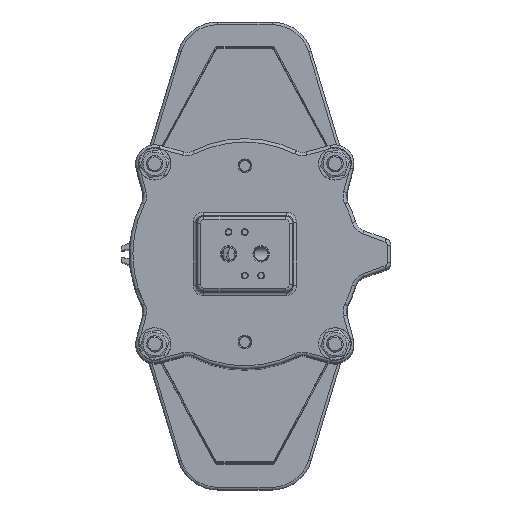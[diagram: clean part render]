
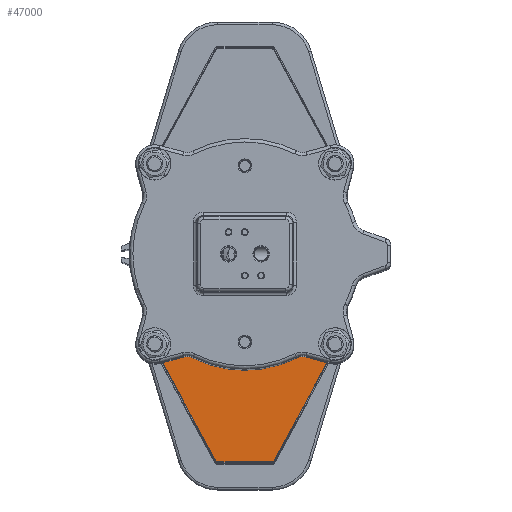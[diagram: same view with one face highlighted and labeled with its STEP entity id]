
A CAD part, top view. The second image highlights one B-rep face of the part: STEP entity #47000.
In plain terms, the highlighted planar face has unit normal (0, 0, 1).
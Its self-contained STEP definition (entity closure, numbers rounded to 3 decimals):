
#2109=PLANE('',#51800);
#5489=LINE('',#94013,#8362);
#5490=LINE('',#94016,#8363);
#5494=LINE('',#94024,#8367);
#5497=LINE('',#94030,#8370);
#5500=LINE('',#94036,#8373);
#5504=LINE('',#94044,#8377);
#5512=LINE('',#94060,#8385);
#5514=LINE('',#94063,#8387);
#5516=LINE('',#94067,#8389);
#5518=LINE('',#94071,#8391);
#5519=LINE('',#94073,#8392);
#6122=LINE('',#97007,#8995);
#6123=LINE('',#97009,#8996);
#6124=LINE('',#97010,#8997);
#8362=VECTOR('',#61075,10.);
#8363=VECTOR('',#61078,10.);
#8367=VECTOR('',#61084,10.);
#8370=VECTOR('',#61087,10.);
#8373=VECTOR('',#61092,10.);
#8377=VECTOR('',#61098,10.);
#8385=VECTOR('',#61110,10.);
#8387=VECTOR('',#61114,10.);
#8389=VECTOR('',#61118,10.);
#8391=VECTOR('',#61122,10.);
#8392=VECTOR('',#61125,10.);
#8995=VECTOR('',#63618,10.);
#8996=VECTOR('',#63619,10.);
#8997=VECTOR('',#63620,10.);
#11706=FACE_OUTER_BOUND('',#14735,.T.);
#14735=EDGE_LOOP('',(#39958,#39959,#39960,#39961,#39962,#39963,#39964,#39965,
#39966,#39967,#39968,#39969,#39970,#39971));
#21175=VERTEX_POINT('',#94006);
#21178=VERTEX_POINT('',#94011);
#21179=VERTEX_POINT('',#94015);
#21182=VERTEX_POINT('',#94022);
#21184=VERTEX_POINT('',#94027);
#21185=VERTEX_POINT('',#94029);
#21187=VERTEX_POINT('',#94035);
#21190=VERTEX_POINT('',#94042);
#21195=VERTEX_POINT('',#94057);
#21196=VERTEX_POINT('',#94059);
#21197=VERTEX_POINT('',#94065);
#21198=VERTEX_POINT('',#94069);
#21860=VERTEX_POINT('',#97006);
#21861=VERTEX_POINT('',#97008);
#26873=EDGE_CURVE('',#21178,#21175,#5489,.T.);
#26874=EDGE_CURVE('',#21179,#21178,#5490,.T.);
#26878=EDGE_CURVE('',#21182,#21179,#5494,.T.);
#26881=EDGE_CURVE('',#21184,#21185,#5497,.T.);
#26884=EDGE_CURVE('',#21187,#21184,#5500,.T.);
#26888=EDGE_CURVE('',#21190,#21187,#5504,.T.);
#26896=EDGE_CURVE('',#21196,#21195,#5512,.T.);
#26898=EDGE_CURVE('',#21195,#21175,#5514,.T.);
#26900=EDGE_CURVE('',#21190,#21197,#5516,.T.);
#26902=EDGE_CURVE('',#21197,#21198,#5518,.T.);
#26903=EDGE_CURVE('',#21196,#21198,#5519,.T.);
#28119=EDGE_CURVE('',#21182,#21860,#6122,.T.);
#28120=EDGE_CURVE('',#21860,#21861,#6123,.T.);
#28121=EDGE_CURVE('',#21861,#21185,#6124,.T.);
#39958=ORIENTED_EDGE('',*,*,#28119,.T.);
#39959=ORIENTED_EDGE('',*,*,#28120,.T.);
#39960=ORIENTED_EDGE('',*,*,#28121,.T.);
#39961=ORIENTED_EDGE('',*,*,#26881,.F.);
#39962=ORIENTED_EDGE('',*,*,#26884,.F.);
#39963=ORIENTED_EDGE('',*,*,#26888,.F.);
#39964=ORIENTED_EDGE('',*,*,#26900,.T.);
#39965=ORIENTED_EDGE('',*,*,#26902,.T.);
#39966=ORIENTED_EDGE('',*,*,#26903,.F.);
#39967=ORIENTED_EDGE('',*,*,#26896,.T.);
#39968=ORIENTED_EDGE('',*,*,#26898,.T.);
#39969=ORIENTED_EDGE('',*,*,#26873,.F.);
#39970=ORIENTED_EDGE('',*,*,#26874,.F.);
#39971=ORIENTED_EDGE('',*,*,#26878,.F.);
#47000=ADVANCED_FACE('',(#11706),#2109,.T.);
#51800=AXIS2_PLACEMENT_3D('',#97005,#63616,#63617);
#61075=DIRECTION('',(-0.477,-0.879,0.));
#61078=DIRECTION('',(-0.007,-1.,0.));
#61084=DIRECTION('',(1.,0.,0.));
#61087=DIRECTION('',(1.,0.,0.));
#61092=DIRECTION('',(0.,1.,0.));
#61098=DIRECTION('',(-0.477,0.879,0.));
#61110=DIRECTION('',(0.,1.,0.));
#61114=DIRECTION('',(1.,0.,0.));
#61118=DIRECTION('',(1.,0.,0.));
#61122=DIRECTION('',(0.,-1.,0.));
#61125=DIRECTION('',(-1.,0.,0.));
#63616=DIRECTION('center_axis',(0.,0.,
1.));
#63617=DIRECTION('ref_axis',(1.,0.,0.));
#63618=DIRECTION('',(-0.882,-0.471,0.));
#63619=DIRECTION('',(-1.,0.,0.));
#63620=DIRECTION('',(-0.882,0.471,0.));
#94006=CARTESIAN_POINT('',(-165.848,-120.376,673.795));
#94011=CARTESIAN_POINT('',(-120.053,-35.962,673.795));
#94013=CARTESIAN_POINT('',(-120.053,-35.962,673.795));
#94015=CARTESIAN_POINT('',(-120.001,-28.426,673.795));
#94016=CARTESIAN_POINT('',(-120.001,-28.426,673.795));
#94022=CARTESIAN_POINT('',(-122.748,-28.426,673.795));
#94024=CARTESIAN_POINT('',(-254.001,-28.426,673.795));
#94027=CARTESIAN_POINT('',(-254.001,-28.426,673.795));
#94029=CARTESIAN_POINT('',(-251.253,-28.426,673.795));
#94030=CARTESIAN_POINT('',(-254.001,-28.426,673.795));
#94035=CARTESIAN_POINT('',(-254.001,-35.866,673.795));
#94036=CARTESIAN_POINT('',(-254.001,-35.866,673.795));
#94042=CARTESIAN_POINT('',(-208.154,-120.376,673.795));
#94044=CARTESIAN_POINT('',(-207.964,-120.726,673.795));
#94057=CARTESIAN_POINT('',(-166.417,-120.376,673.795));
#94059=CARTESIAN_POINT('',(-166.417,-120.726,673.795));
#94060=CARTESIAN_POINT('',(-166.417,-92.055,673.795));
#94063=CARTESIAN_POINT('',(-176.426,-120.376,673.795));
#94065=CARTESIAN_POINT('',(-207.584,-120.376,673.795));
#94067=CARTESIAN_POINT('',(-197.294,-120.376,673.795));
#94069=CARTESIAN_POINT('',(-207.584,-120.726,673.795));
#94071=CARTESIAN_POINT('',(-207.584,-92.23,673.795));
#94073=CARTESIAN_POINT('',(-166.038,-120.726,673.795));
#97005=CARTESIAN_POINT('Origin',(-187.003,-63.735,673.795));
#97006=CARTESIAN_POINT('',(-126.501,-30.427,673.795));
#97007=CARTESIAN_POINT('',(-149.468,-42.677,673.795));
#97008=CARTESIAN_POINT('',(-247.501,-30.427,673.795));
#97009=CARTESIAN_POINT('',(-156.752,-30.427,673.795));
#97010=CARTESIAN_POINT('',(-217.036,-46.675,673.795));
